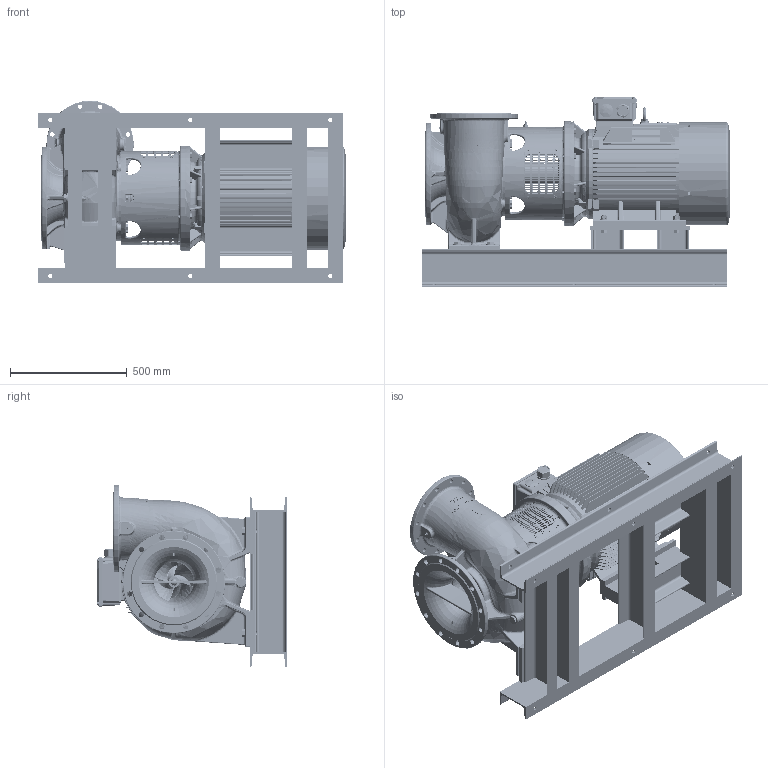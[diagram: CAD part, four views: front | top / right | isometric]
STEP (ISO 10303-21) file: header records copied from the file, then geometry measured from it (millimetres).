
FILE_DESCRIPTION((''),'2;1');
FILE_NAME('NSLH250-210_A02_FO_ASM','2024-05-28T',('maxz'),(''),'PRO/ENGINEER BY PARAMETRIC TECHNOLOGY CORPORATION, 2017170','PRO/ENGINEER BY PARAMETRIC TECHNOLOGY CORPORATION, 2017170','');
FILE_SCHEMA(('CONFIG_CONTROL_DESIGN'));
Products named in the file (54): 598680; 598720; 598640; 506713; 107388; 704247; 700951; 506840; 117618; 117306; 707211; 725991_1; 725991_2; 725991_ASM; 709675; 705274; 117619; 696499_ASM; 704067; 705750; 702273; 704188; 506963; 704390; 704391; 712334; 702726; 506700; 704020; 710728_1; 710728_2; 710728_ASM; 717871; 696497_ASM; 598660; 110554_AF0; 110554_AF1; 117623; 720488; 703207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
Assembly tree (112 placements, depth 5):
  NSLH250-210_A02_FO_ASM
    696497_ASM
      598680
      598720
      598640
      506713
      696499_ASM
        107388
        704247
        700951  x2
        506840
        117618
        117306
        707211
        725991_ASM
          725991_1
          725991_2
        709675
        705274
        117619
      704067  x8
      705750  x8
      702273  x4
      704188
      506963
      704390  x2
      704391
      712334
      702726
      506700
      704020
      710728_ASM
        710728_1
        710728_2
      717871
    696395_ASM
      598660
      110554_AF0
      110554_AF1
      117623
      720488  x8
      703207
      712333
      704268
      704309  x12
      711318
      117587
      703090  x4
      702247  x4
      701239  x8
      701218  x4
      707602  x4
      703840  x4
    854502
Bounding box: 1324 x 814.73 x 781.82 mm (x, y, z)
Volume: 109673611.1 mm3; surface area: 12396214.2 mm2
Topology: 137 solids, 197 shells, 8070 faces, 20930 edges, 13405 vertices
Faces by surface type: plane 2999, cylinder 1698, bspline 1195, cone 874, extrusion 762, torus 441, sphere 95, revolution 6
Entity records: 412206 total; most frequent: CARTESIAN_POINT 243878, ORIENTED_EDGE 37474, DIRECTION 29463, EDGE_CURVE 18846, VERTEX_POINT 12198, AXIS2_PLACEMENT_3D 10329, VECTOR 8799, EDGE_LOOP 8314
